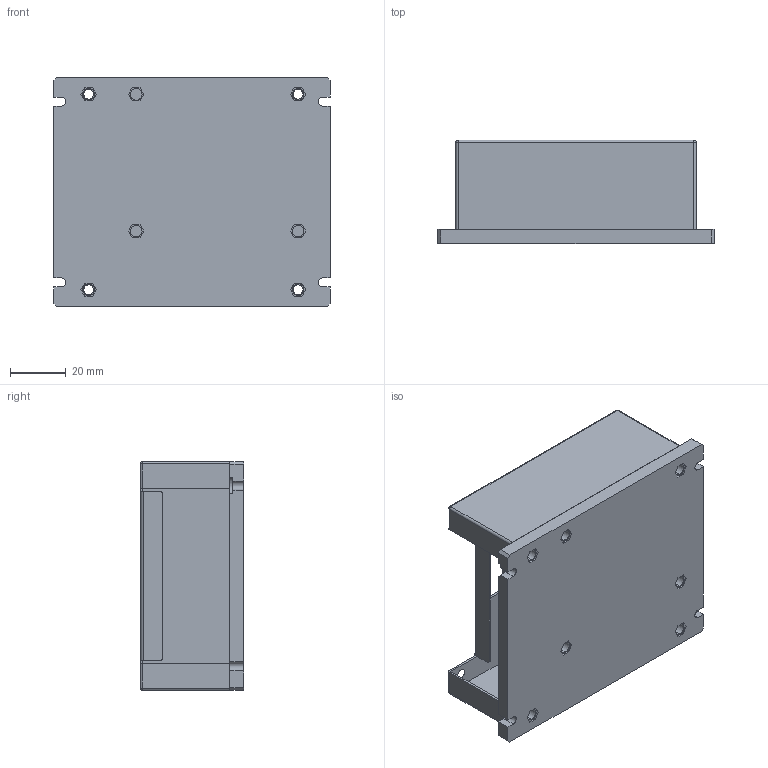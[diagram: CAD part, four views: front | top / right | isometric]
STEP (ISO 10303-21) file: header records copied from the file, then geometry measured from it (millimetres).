
FILE_DESCRIPTION (( 'STEP AP214' ), '1' );
FILE_NAME ('蚾饜极.STEP', '2022-12-09T02:22:45', ( '' ), ( '' ), 'SwSTEP 2.0', 'SolidWorks 2018', '' );
FILE_SCHEMA (( 'AUTOMOTIVE_DESIGN' ));
Length unit declared in the file: millimetre
Products named in the file (3): IXLS3060菁釱; IXLS3060俋褲; 蚾饜极
Assembly tree (2 placements, depth 2):
  蚾饜极
    IXLS3060菁釱
    IXLS3060俋褲
Bounding box: 99 x 37 x 82 mm (x, y, z)
Volume: 50387.3 mm3; surface area: 45702.5 mm2
Topology: 3 solids, 3 shells, 198 faces, 539 edges, 350 vertices
Faces by surface type: plane 134, cylinder 52, cone 8, sphere 4
Entity records: 6370 total; most frequent: CARTESIAN_POINT 1088, ORIENTED_EDGE 1070, DIRECTION 1061, EDGE_CURVE 535, LINE 415, VECTOR 415, VERTEX_POINT 350, AXIS2_PLACEMENT_3D 323
